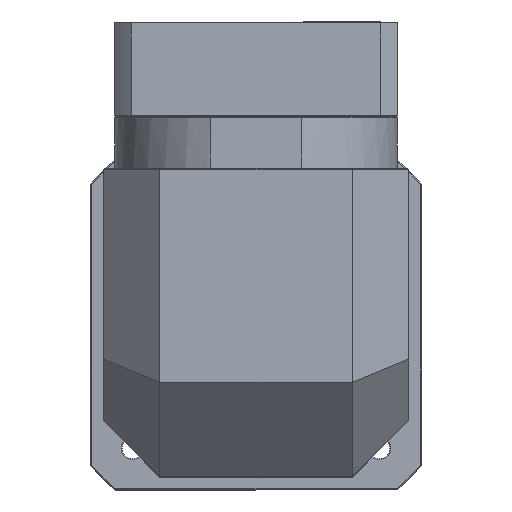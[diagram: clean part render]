
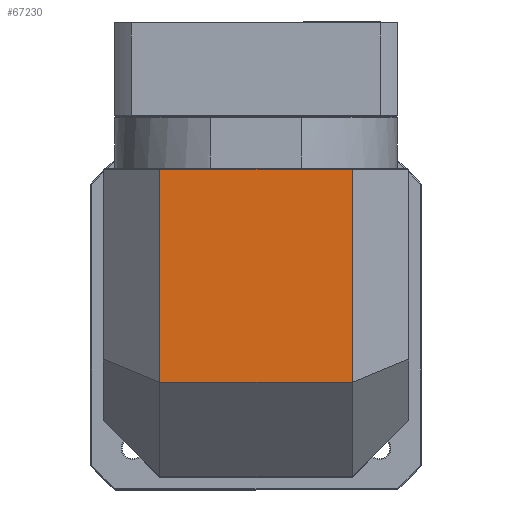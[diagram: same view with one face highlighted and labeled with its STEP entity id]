
A CAD part, top view. The second image highlights one B-rep face of the part: STEP entity #67230.
In plain terms, the highlighted planar face has unit normal (0, 0, 1).
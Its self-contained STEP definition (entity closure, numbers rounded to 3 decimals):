
#1016 = VECTOR ( 'NONE', #17348, 1000. ) ;
#3087 = CARTESIAN_POINT ( 'NONE',  ( -200.739, 1.096, 76.693 ) ) ;
#9799 = ORIENTED_EDGE ( 'NONE', *, *, #10957, .F. ) ;
#10364 = DIRECTION ( 'NONE',  ( 0., 1., 0. ) ) ;
#10957 = EDGE_CURVE ( 'NONE', #19857, #69606, #32985, .T. ) ;
#12987 = CARTESIAN_POINT ( 'NONE',  ( -200.739, 114.096, 76.693 ) ) ;
#14897 = LINE ( 'NONE', #12987, #66366 ) ;
#17348 = DIRECTION ( 'NONE',  ( 0., 1., 0. ) ) ;
#19857 = VERTEX_POINT ( 'NONE', #35771 ) ;
#20756 = FACE_OUTER_BOUND ( 'NONE', #29786, .T. ) ;
#22905 = CARTESIAN_POINT ( 'NONE',  ( -170.739, 114.096, 76.693 ) ) ;
#29786 = EDGE_LOOP ( 'NONE', ( #98762, #114656, #9799, #40695 ) ) ;
#32985 = LINE ( 'NONE', #59304, #34448 ) ;
#34294 = DIRECTION ( 'NONE',  ( -1., 0., 0. ) ) ;
#34448 = VECTOR ( 'NONE', #10364, 1000. ) ;
#35771 = CARTESIAN_POINT ( 'NONE',  ( -170.739, 1.096, 76.693 ) ) ;
#38010 = PLANE ( 'NONE',  #120677 ) ;
#40695 = ORIENTED_EDGE ( 'NONE', *, *, #93653, .T. ) ;
#43695 = VERTEX_POINT ( 'NONE', #47790 ) ;
#46586 = VERTEX_POINT ( 'NONE', #123538 ) ;
#47790 = CARTESIAN_POINT ( 'NONE',  ( -68.739, 114.096, 76.693 ) ) ;
#53437 = DIRECTION ( 'NONE',  ( 1., 0., 0. ) ) ;
#59304 = CARTESIAN_POINT ( 'NONE',  ( -170.739, 32.846, 76.693 ) ) ;
#62362 = VECTOR ( 'NONE', #53437, 1000. ) ;
#65998 = EDGE_CURVE ( 'NONE', #46586, #43695, #105618, .T. ) ;
#66366 = VECTOR ( 'NONE', #34294, 1000. ) ;
#66798 = DIRECTION ( 'NONE',  ( 0., 0., -1. ) ) ;
#67230 = ADVANCED_FACE ( 'NONE', ( #20756 ), #38010, .F. ) ;
#67244 = CARTESIAN_POINT ( 'NONE',  ( -200.739, 114.596, 76.693 ) ) ;
#69606 = VERTEX_POINT ( 'NONE', #22905 ) ;
#75790 = EDGE_CURVE ( 'NONE', #43695, #69606, #14897, .T. ) ;
#76235 = CARTESIAN_POINT ( 'NONE',  ( -68.739, 114.596, 76.693 ) ) ;
#93653 = EDGE_CURVE ( 'NONE', #19857, #46586, #116998, .T. ) ;
#98602 = DIRECTION ( 'NONE',  ( 1., 0., 0. ) ) ;
#98762 = ORIENTED_EDGE ( 'NONE', *, *, #65998, .T. ) ;
#105618 = LINE ( 'NONE', #76235, #1016 ) ;
#114656 = ORIENTED_EDGE ( 'NONE', *, *, #75790, .T. ) ;
#116998 = LINE ( 'NONE', #3087, #62362 ) ;
#120677 = AXIS2_PLACEMENT_3D ( 'NONE', #67244, #66798, #98602 ) ;
#123538 = CARTESIAN_POINT ( 'NONE',  ( -68.739, 1.096, 76.693 ) ) ;
